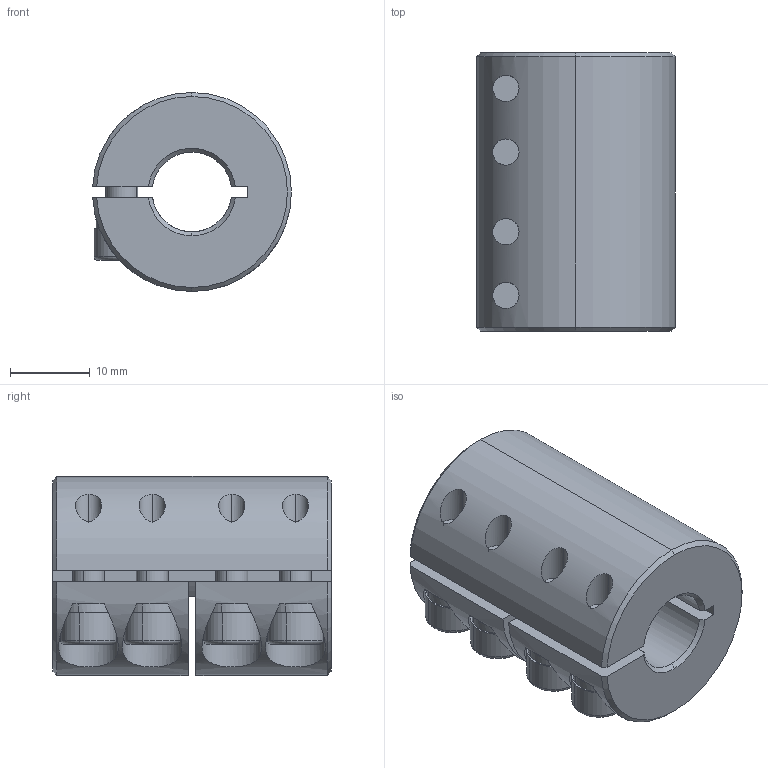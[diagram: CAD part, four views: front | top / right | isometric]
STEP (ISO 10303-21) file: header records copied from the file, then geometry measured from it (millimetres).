
FILE_DESCRIPTION (( 'STEP AP203' ), '1' );
FILE_NAME ('LL-B-D25L35-10-11.STEP', '2021-11-05T07:04:28', ( '' ), ( '' ), 'SwSTEP 2.0', 'SolidWorks 2018', '' );
FILE_SCHEMA (( 'CONFIG_CONTROL_DESIGN' ));
Length unit declared in the file: millimetre
Products named in the file (1): LL-B-D25L35-10-11
Bounding box: 24.98 x 35 x 25 mm (x, y, z)
Volume: 13191.4 mm3; surface area: 6885 mm2
Topology: 1 solids, 1 shells, 192 faces, 493 edges, 307 vertices
Faces by surface type: plane 92, cylinder 72, cone 20, torus 8
Entity records: 6313 total; most frequent: CARTESIAN_POINT 1497, DIRECTION 1042, ORIENTED_EDGE 970, EDGE_CURVE 485, AXIS2_PLACEMENT_3D 404, VERTEX_POINT 307, VECTOR 234, LINE 234
